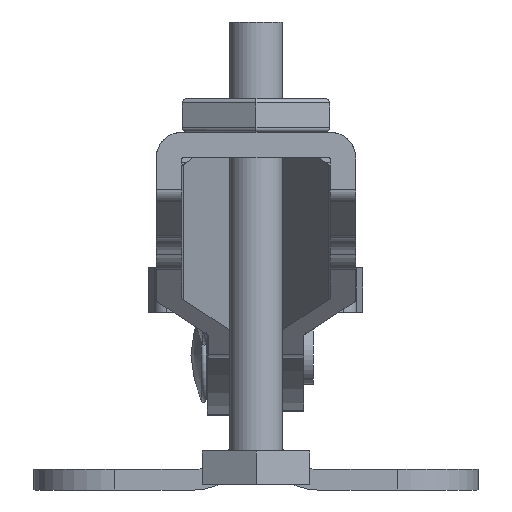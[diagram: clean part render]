
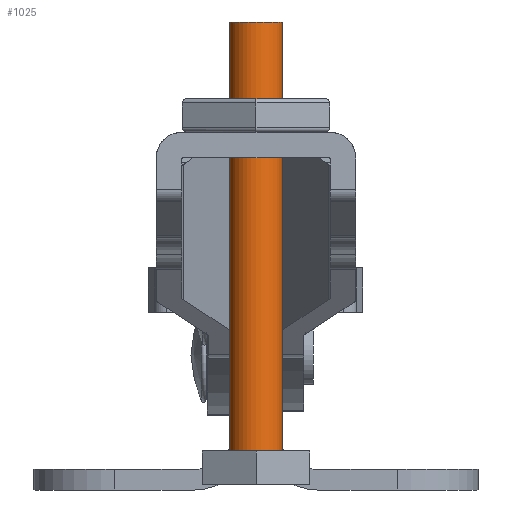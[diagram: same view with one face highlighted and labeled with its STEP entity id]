
A CAD part, left-side view. The second image highlights one B-rep face of the part: STEP entity #1025.
In plain terms, the highlighted cylindrical face has radius 1.587 mm (diameter 3.175 mm), a full revolution.
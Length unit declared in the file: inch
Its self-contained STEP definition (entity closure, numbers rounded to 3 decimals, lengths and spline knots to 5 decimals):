
#816=CYLINDRICAL_SURFACE('',#4329,0.0625);
#1025=ADVANCED_FACE('',(#1260,#1261),#816,.T.);
#1260=FACE_BOUND('',#1714,.T.);
#1261=FACE_BOUND('',#1715,.T.);
#1714=EDGE_LOOP('',(#2584));
#1715=EDGE_LOOP('',(#2585));
#2584=ORIENTED_EDGE('',*,*,#3672,.T.);
#2585=ORIENTED_EDGE('',*,*,#3673,.T.);
#3175=VERTEX_POINT('',#7377);
#3176=VERTEX_POINT('',#7380);
#3672=EDGE_CURVE('',#3175,#3175,#3935,.T.);
#3673=EDGE_CURVE('',#3176,#3176,#3936,.T.);
#3935=CIRCLE('',#4326,0.0625);
#3936=CIRCLE('',#4328,0.0625);
#4326=AXIS2_PLACEMENT_3D('',#7376,#5242,#5243);
#4328=AXIS2_PLACEMENT_3D('',#7379,#5246,#5247);
#4329=AXIS2_PLACEMENT_3D('',#7381,#5248,#5249);
#5242=DIRECTION('',(0.,0.,1.));
#5243=DIRECTION('',(0.,1.,0.));
#5246=DIRECTION('',(0.,0.,-1.));
#5247=DIRECTION('',(-1.,0.,0.));
#5248=DIRECTION('',(0.,0.,-1.));
#5249=DIRECTION('',(-1.,0.,0.));
#7376=CARTESIAN_POINT('',(-1.1909,-0.32959,0.09097));
#7377=CARTESIAN_POINT('',(-1.1909,-0.26709,0.09097));
#7379=CARTESIAN_POINT('',(-1.1909,-0.32959,1.09097));
#7380=CARTESIAN_POINT('',(-1.2534,-0.32959,1.09097));
#7381=CARTESIAN_POINT('',(-1.1909,-0.32959,1.09097));
